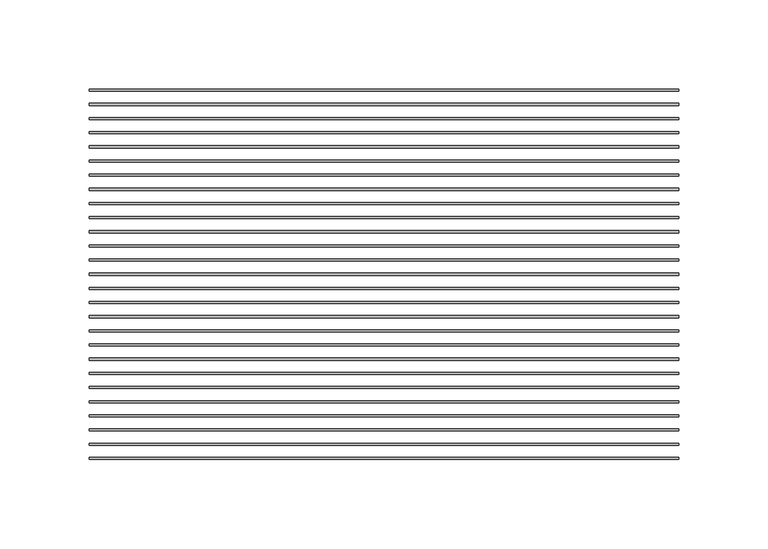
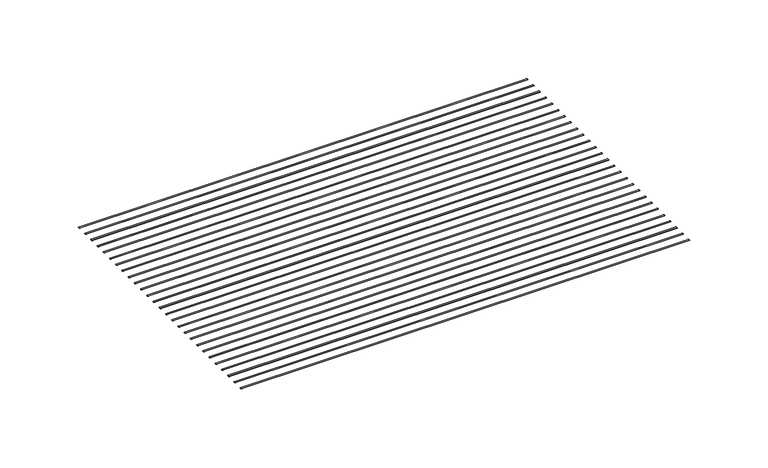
"""IFC4 building model written with IfcOpenShell, lengths in millimetres: proxy geometry, CRAi Generic Model Mesh Piece Face Based : CRAi Generic Model Mesh Piece Face Based."""

from ifc_helpers import new_model, si_unit, point, frame, origin, place, context, project, spatial, ellipse_curve, trimmed, source, transform, mapped, element, save
from ifc_brep_helpers import plane_surface, extruded_surface, advanced_brep


def generic_models_7dd17a53(model_context):
    return source(origin(), model_context, "Body", "AdvancedBrep", [
        advanced_brep(
        [(-165.1, 155.135384, -2.9765625), (-165.1, 153.944759, -2.9765625), (165.1, 155.135384, -2.9765625), (165.1, 153.944759, -2.9765625)],
        [
            (0, 1, ellipse_curve(frame((-165.1, 154.5400715, -2.9765625), z_axis=(-1.0, 0.0, 0.0), x_axis=(0.0, -1.0, 0.0)), 0.5953125, 0.1984375)),
            (1, 0, ellipse_curve(frame((-165.1, 154.5400715, -2.9765625), z_axis=(-1.0, 0.0, 0.0), x_axis=(0.0, -1.0, 0.0)), 0.5953125, 0.1984375)),
            (2, 3, ellipse_curve(frame((165.1, 154.5400715, -2.9765625), z_axis=(1.0, 0.0, 0.0), x_axis=(0.0, -1.0, 0.0)), 0.5953125, 0.1984375)),
            (3, 2, ellipse_curve(frame((165.1, 154.5400715, -2.9765625), z_axis=(1.0, 0.0, 0.0), x_axis=(0.0, -1.0, 0.0)), 0.5953125, 0.1984375)),
            (0, 2),
            (3, 1),
        ],
        [
            plane_surface(frame((-165.1, 154.5400715, -2.9765625), z_axis=(-1.0, 0.0, 0.0), x_axis=(0.0, 0.0, 1.0))),
            plane_surface(frame((165.1, 154.5400715, -2.9765625), z_axis=(1.0, 0.0, 0.0), x_axis=(0.0, 0.0, 1.0))),
            extruded_surface(trimmed(ellipse_curve(frame((165.1, 154.5400715, -2.9765625), z_axis=(-1.0, 0.0, 0.0), x_axis=(0.0, -1.0, 0.0)), 0.5953125, 0.1984375), [point((165.1, 155.135384, -2.9765625))], [point((165.1, 153.944759, -2.9765625))], True, "CARTESIAN"), (-330.2, 0.0, 0.0), 330.2),
            extruded_surface(trimmed(ellipse_curve(frame((165.1, 154.5400715, -2.9765625), z_axis=(-1.0, 0.0, 0.0), x_axis=(0.0, -1.0, 0.0)), 0.5953125, 0.1984375), [point((165.1, 153.944759, -2.9765625))], [point((165.1, 155.135384, -2.9765625))], True, "CARTESIAN"), (-330.2, 0.0, 0.0), 330.2),
        ],
        [
            (0, [[1, 2]]),
            (1, [[3, 4]]),
            (2, [[-1, 5, -4, 6]]),
            (3, [[-2, -6, -3, -5]]),
        ],
    ),
        advanced_brep(
        [(-165.1, 147.197884, -2.9765625), (-165.1, 146.007259, -2.9765625), (165.1, 147.197884, -2.9765625), (165.1, 146.007259, -2.9765625)],
        [
            (0, 1, ellipse_curve(frame((-165.1, 146.6025715, -2.9765625), z_axis=(-1.0, 0.0, 0.0), x_axis=(0.0, -1.0, 0.0)), 0.5953125, 0.1984375)),
            (1, 0, ellipse_curve(frame((-165.1, 146.6025715, -2.9765625), z_axis=(-1.0, 0.0, 0.0), x_axis=(0.0, -1.0, 0.0)), 0.5953125, 0.1984375)),
            (2, 3, ellipse_curve(frame((165.1, 146.6025715, -2.9765625), z_axis=(1.0, 0.0, 0.0), x_axis=(0.0, -1.0, 0.0)), 0.5953125, 0.1984375)),
            (3, 2, ellipse_curve(frame((165.1, 146.6025715, -2.9765625), z_axis=(1.0, 0.0, 0.0), x_axis=(0.0, -1.0, 0.0)), 0.5953125, 0.1984375)),
            (0, 2),
            (3, 1),
        ],
        [
            plane_surface(frame((-165.1, 146.6025715, -2.9765625), z_axis=(-1.0, 0.0, 0.0), x_axis=(0.0, 0.0, 1.0))),
            plane_surface(frame((165.1, 146.6025715, -2.9765625), z_axis=(1.0, 0.0, 0.0), x_axis=(0.0, 0.0, 1.0))),
            extruded_surface(trimmed(ellipse_curve(frame((165.1, 146.6025715, -2.9765625), z_axis=(-1.0, 0.0, 0.0), x_axis=(0.0, -1.0, 0.0)), 0.5953125, 0.1984375), [point((165.1, 147.197884, -2.9765625))], [point((165.1, 146.007259, -2.9765625))], True, "CARTESIAN"), (-330.2, 0.0, 0.0), 330.2),
            extruded_surface(trimmed(ellipse_curve(frame((165.1, 146.6025715, -2.9765625), z_axis=(-1.0, 0.0, 0.0), x_axis=(0.0, -1.0, 0.0)), 0.5953125, 0.1984375), [point((165.1, 146.007259, -2.9765625))], [point((165.1, 147.197884, -2.9765625))], True, "CARTESIAN"), (-330.2, 0.0, 0.0), 330.2),
        ],
        [
            (0, [[1, 2]]),
            (1, [[3, 4]]),
            (2, [[-1, 5, -4, 6]]),
            (3, [[-2, -6, -3, -5]]),
        ],
    ),
        advanced_brep(
        [(-165.1, 139.260384, -2.9765625), (-165.1, 138.069759, -2.9765625), (165.1, 139.260384, -2.9765625), (165.1, 138.069759, -2.9765625)],
        [
            (0, 1, ellipse_curve(frame((-165.1, 138.6650715, -2.9765625), z_axis=(-1.0, 0.0, 0.0), x_axis=(0.0, -1.0, 0.0)), 0.5953125, 0.1984375)),
            (1, 0, ellipse_curve(frame((-165.1, 138.6650715, -2.9765625), z_axis=(-1.0, 0.0, 0.0), x_axis=(0.0, -1.0, 0.0)), 0.5953125, 0.1984375)),
            (2, 3, ellipse_curve(frame((165.1, 138.6650715, -2.9765625), z_axis=(1.0, 0.0, 0.0), x_axis=(0.0, -1.0, 0.0)), 0.5953125, 0.1984375)),
            (3, 2, ellipse_curve(frame((165.1, 138.6650715, -2.9765625), z_axis=(1.0, 0.0, 0.0), x_axis=(0.0, -1.0, 0.0)), 0.5953125, 0.1984375)),
            (0, 2),
            (3, 1),
        ],
        [
            plane_surface(frame((-165.1, 138.6650715, -2.9765625), z_axis=(-1.0, 0.0, 0.0), x_axis=(0.0, 0.0, 1.0))),
            plane_surface(frame((165.1, 138.6650715, -2.9765625), z_axis=(1.0, 0.0, 0.0), x_axis=(0.0, 0.0, 1.0))),
            extruded_surface(trimmed(ellipse_curve(frame((165.1, 138.6650715, -2.9765625), z_axis=(-1.0, 0.0, 0.0), x_axis=(0.0, -1.0, 0.0)), 0.5953125, 0.1984375), [point((165.1, 139.260384, -2.9765625))], [point((165.1, 138.069759, -2.9765625))], True, "CARTESIAN"), (-330.2, 0.0, 0.0), 330.2),
            extruded_surface(trimmed(ellipse_curve(frame((165.1, 138.6650715, -2.9765625), z_axis=(-1.0, 0.0, 0.0), x_axis=(0.0, -1.0, 0.0)), 0.5953125, 0.1984375), [point((165.1, 138.069759, -2.9765625))], [point((165.1, 139.260384, -2.9765625))], True, "CARTESIAN"), (-330.2, 0.0, 0.0), 330.2),
        ],
        [
            (0, [[1, 2]]),
            (1, [[3, 4]]),
            (2, [[-1, 5, -4, 6]]),
            (3, [[-2, -6, -3, -5]]),
        ],
    ),
        advanced_brep(
        [(-165.1, 131.322884, -2.9765625), (-165.1, 130.132259, -2.9765625), (165.1, 131.322884, -2.9765625), (165.1, 130.132259, -2.9765625)],
        [
            (0, 1, ellipse_curve(frame((-165.1, 130.7275715, -2.9765625), z_axis=(-1.0, 0.0, 0.0), x_axis=(0.0, -1.0, 0.0)), 0.5953125, 0.1984375)),
            (1, 0, ellipse_curve(frame((-165.1, 130.7275715, -2.9765625), z_axis=(-1.0, 0.0, 0.0), x_axis=(0.0, -1.0, 0.0)), 0.5953125, 0.1984375)),
            (2, 3, ellipse_curve(frame((165.1, 130.7275715, -2.9765625), z_axis=(1.0, 0.0, 0.0), x_axis=(0.0, -1.0, 0.0)), 0.5953125, 0.1984375)),
            (3, 2, ellipse_curve(frame((165.1, 130.7275715, -2.9765625), z_axis=(1.0, 0.0, 0.0), x_axis=(0.0, -1.0, 0.0)), 0.5953125, 0.1984375)),
            (0, 2),
            (3, 1),
        ],
        [
            plane_surface(frame((-165.1, 130.7275715, -2.9765625), z_axis=(-1.0, 0.0, 0.0), x_axis=(0.0, 0.0, 1.0))),
            plane_surface(frame((165.1, 130.7275715, -2.9765625), z_axis=(1.0, 0.0, 0.0), x_axis=(0.0, 0.0, 1.0))),
            extruded_surface(trimmed(ellipse_curve(frame((165.1, 130.7275715, -2.9765625), z_axis=(-1.0, 0.0, 0.0), x_axis=(0.0, -1.0, 0.0)), 0.5953125, 0.1984375), [point((165.1, 131.322884, -2.9765625))], [point((165.1, 130.132259, -2.9765625))], True, "CARTESIAN"), (-330.2, 0.0, 0.0), 330.2),
            extruded_surface(trimmed(ellipse_curve(frame((165.1, 130.7275715, -2.9765625), z_axis=(-1.0, 0.0, 0.0), x_axis=(0.0, -1.0, 0.0)), 0.5953125, 0.1984375), [point((165.1, 130.132259, -2.9765625))], [point((165.1, 131.322884, -2.9765625))], True, "CARTESIAN"), (-330.2, 0.0, 0.0), 330.2),
        ],
        [
            (0, [[1, 2]]),
            (1, [[3, 4]]),
            (2, [[-1, 5, -4, 6]]),
            (3, [[-2, -6, -3, -5]]),
        ],
    ),
        advanced_brep(
        [(-165.1, 123.385384, -2.9765625), (-165.1, 122.194759, -2.9765625), (165.1, 123.385384, -2.9765625), (165.1, 122.194759, -2.9765625)],
        [
            (0, 1, ellipse_curve(frame((-165.1, 122.7900715, -2.9765625), z_axis=(-1.0, 0.0, 0.0), x_axis=(0.0, -1.0, 0.0)), 0.5953125, 0.1984375)),
            (1, 0, ellipse_curve(frame((-165.1, 122.7900715, -2.9765625), z_axis=(-1.0, 0.0, 0.0), x_axis=(0.0, -1.0, 0.0)), 0.5953125, 0.1984375)),
            (2, 3, ellipse_curve(frame((165.1, 122.7900715, -2.9765625), z_axis=(1.0, 0.0, 0.0), x_axis=(0.0, -1.0, 0.0)), 0.5953125, 0.1984375)),
            (3, 2, ellipse_curve(frame((165.1, 122.7900715, -2.9765625), z_axis=(1.0, 0.0, 0.0), x_axis=(0.0, -1.0, 0.0)), 0.5953125, 0.1984375)),
            (0, 2),
            (3, 1),
        ],
        [
            plane_surface(frame((-165.1, 122.7900715, -2.9765625), z_axis=(-1.0, 0.0, 0.0), x_axis=(0.0, 0.0, 1.0))),
            plane_surface(frame((165.1, 122.7900715, -2.9765625), z_axis=(1.0, 0.0, 0.0), x_axis=(0.0, 0.0, 1.0))),
            extruded_surface(trimmed(ellipse_curve(frame((165.1, 122.7900715, -2.9765625), z_axis=(-1.0, 0.0, 0.0), x_axis=(0.0, -1.0, 0.0)), 0.5953125, 0.1984375), [point((165.1, 123.385384, -2.9765625))], [point((165.1, 122.194759, -2.9765625))], True, "CARTESIAN"), (-330.2, 0.0, 0.0), 330.2),
            extruded_surface(trimmed(ellipse_curve(frame((165.1, 122.7900715, -2.9765625), z_axis=(-1.0, 0.0, 0.0), x_axis=(0.0, -1.0, 0.0)), 0.5953125, 0.1984375), [point((165.1, 122.194759, -2.9765625))], [point((165.1, 123.385384, -2.9765625))], True, "CARTESIAN"), (-330.2, 0.0, 0.0), 330.2),
        ],
        [
            (0, [[1, 2]]),
            (1, [[3, 4]]),
            (2, [[-1, 5, -4, 6]]),
            (3, [[-2, -6, -3, -5]]),
        ],
    ),
        advanced_brep(
        [(-165.1, 115.447884, -2.9765625), (-165.1, 114.257259, -2.9765625), (165.1, 115.447884, -2.9765625), (165.1, 114.257259, -2.9765625)],
        [
            (0, 1, ellipse_curve(frame((-165.1, 114.8525715, -2.9765625), z_axis=(-1.0, 0.0, 0.0), x_axis=(0.0, -1.0, 0.0)), 0.5953125, 0.1984375)),
            (1, 0, ellipse_curve(frame((-165.1, 114.8525715, -2.9765625), z_axis=(-1.0, 0.0, 0.0), x_axis=(0.0, -1.0, 0.0)), 0.5953125, 0.1984375)),
            (2, 3, ellipse_curve(frame((165.1, 114.8525715, -2.9765625), z_axis=(1.0, 0.0, 0.0), x_axis=(0.0, -1.0, 0.0)), 0.5953125, 0.1984375)),
            (3, 2, ellipse_curve(frame((165.1, 114.8525715, -2.9765625), z_axis=(1.0, 0.0, 0.0), x_axis=(0.0, -1.0, 0.0)), 0.5953125, 0.1984375)),
            (0, 2),
            (3, 1),
        ],
        [
            plane_surface(frame((-165.1, 114.8525715, -2.9765625), z_axis=(-1.0, 0.0, 0.0), x_axis=(0.0, 0.0, 1.0))),
            plane_surface(frame((165.1, 114.8525715, -2.9765625), z_axis=(1.0, 0.0, 0.0), x_axis=(0.0, 0.0, 1.0))),
            extruded_surface(trimmed(ellipse_curve(frame((165.1, 114.8525715, -2.9765625), z_axis=(-1.0, 0.0, 0.0), x_axis=(0.0, -1.0, 0.0)), 0.5953125, 0.1984375), [point((165.1, 115.447884, -2.9765625))], [point((165.1, 114.257259, -2.9765625))], True, "CARTESIAN"), (-330.2, 0.0, 0.0), 330.2),
            extruded_surface(trimmed(ellipse_curve(frame((165.1, 114.8525715, -2.9765625), z_axis=(-1.0, 0.0, 0.0), x_axis=(0.0, -1.0, 0.0)), 0.5953125, 0.1984375), [point((165.1, 114.257259, -2.9765625))], [point((165.1, 115.447884, -2.9765625))], True, "CARTESIAN"), (-330.2, 0.0, 0.0), 330.2),
        ],
        [
            (0, [[1, 2]]),
            (1, [[3, 4]]),
            (2, [[-1, 5, -4, 6]]),
            (3, [[-2, -6, -3, -5]]),
        ],
    ),
        advanced_brep(
        [(-165.1, 107.510384, -2.9765625), (-165.1, 106.319759, -2.9765625), (165.1, 107.510384, -2.9765625), (165.1, 106.319759, -2.9765625)],
        [
            (0, 1, ellipse_curve(frame((-165.1, 106.9150715, -2.9765625), z_axis=(-1.0, 0.0, 0.0), x_axis=(0.0, -1.0, 0.0)), 0.5953125, 0.1984375)),
            (1, 0, ellipse_curve(frame((-165.1, 106.9150715, -2.9765625), z_axis=(-1.0, 0.0, 0.0), x_axis=(0.0, -1.0, 0.0)), 0.5953125, 0.1984375)),
            (2, 3, ellipse_curve(frame((165.1, 106.9150715, -2.9765625), z_axis=(1.0, 0.0, 0.0), x_axis=(0.0, -1.0, 0.0)), 0.5953125, 0.1984375)),
            (3, 2, ellipse_curve(frame((165.1, 106.9150715, -2.9765625), z_axis=(1.0, 0.0, 0.0), x_axis=(0.0, -1.0, 0.0)), 0.5953125, 0.1984375)),
            (0, 2),
            (3, 1),
        ],
        [
            plane_surface(frame((-165.1, 106.9150715, -2.9765625), z_axis=(-1.0, 0.0, 0.0), x_axis=(0.0, 0.0, 1.0))),
            plane_surface(frame((165.1, 106.9150715, -2.9765625), z_axis=(1.0, 0.0, 0.0), x_axis=(0.0, 0.0, 1.0))),
            extruded_surface(trimmed(ellipse_curve(frame((165.1, 106.9150715, -2.9765625), z_axis=(-1.0, 0.0, 0.0), x_axis=(0.0, -1.0, 0.0)), 0.5953125, 0.1984375), [point((165.1, 107.510384, -2.9765625))], [point((165.1, 106.319759, -2.9765625))], True, "CARTESIAN"), (-330.2, 0.0, 0.0), 330.2),
            extruded_surface(trimmed(ellipse_curve(frame((165.1, 106.9150715, -2.9765625), z_axis=(-1.0, 0.0, 0.0), x_axis=(0.0, -1.0, 0.0)), 0.5953125, 0.1984375), [point((165.1, 106.319759, -2.9765625))], [point((165.1, 107.510384, -2.9765625))], True, "CARTESIAN"), (-330.2, 0.0, 0.0), 330.2),
        ],
        [
            (0, [[1, 2]]),
            (1, [[3, 4]]),
            (2, [[-1, 5, -4, 6]]),
            (3, [[-2, -6, -3, -5]]),
        ],
    ),
        advanced_brep(
        [(-165.1, 99.572884, -2.9765625), (-165.1, 98.382259, -2.9765625), (165.1, 99.572884, -2.9765625), (165.1, 98.382259, -2.9765625)],
        [
            (0, 1, ellipse_curve(frame((-165.1, 98.9775715, -2.9765625), z_axis=(-1.0, 0.0, 0.0), x_axis=(0.0, -1.0, 0.0)), 0.5953125, 0.1984375)),
            (1, 0, ellipse_curve(frame((-165.1, 98.9775715, -2.9765625), z_axis=(-1.0, 0.0, 0.0), x_axis=(0.0, -1.0, 0.0)), 0.5953125, 0.1984375)),
            (2, 3, ellipse_curve(frame((165.1, 98.9775715, -2.9765625), z_axis=(1.0, 0.0, 0.0), x_axis=(0.0, -1.0, 0.0)), 0.5953125, 0.1984375)),
            (3, 2, ellipse_curve(frame((165.1, 98.9775715, -2.9765625), z_axis=(1.0, 0.0, 0.0), x_axis=(0.0, -1.0, 0.0)), 0.5953125, 0.1984375)),
            (0, 2),
            (3, 1),
        ],
        [
            plane_surface(frame((-165.1, 98.9775715, -2.9765625), z_axis=(-1.0, 0.0, 0.0), x_axis=(0.0, 0.0, 1.0))),
            plane_surface(frame((165.1, 98.9775715, -2.9765625), z_axis=(1.0, 0.0, 0.0), x_axis=(0.0, 0.0, 1.0))),
            extruded_surface(trimmed(ellipse_curve(frame((165.1, 98.9775715, -2.9765625), z_axis=(-1.0, 0.0, 0.0), x_axis=(0.0, -1.0, 0.0)), 0.5953125, 0.1984375), [point((165.1, 99.572884, -2.9765625))], [point((165.1, 98.382259, -2.9765625))], True, "CARTESIAN"), (-330.2, 0.0, 0.0), 330.2),
            extruded_surface(trimmed(ellipse_curve(frame((165.1, 98.9775715, -2.9765625), z_axis=(-1.0, 0.0, 0.0), x_axis=(0.0, -1.0, 0.0)), 0.5953125, 0.1984375), [point((165.1, 98.382259, -2.9765625))], [point((165.1, 99.572884, -2.9765625))], True, "CARTESIAN"), (-330.2, 0.0, 0.0), 330.2),
        ],
        [
            (0, [[1, 2]]),
            (1, [[3, 4]]),
            (2, [[-1, 5, -4, 6]]),
            (3, [[-2, -6, -3, -5]]),
        ],
    ),
        advanced_brep(
        [(-165.1, 91.635384, -2.9765625), (-165.1, 90.444759, -2.9765625), (165.1, 91.635384, -2.9765625), (165.1, 90.444759, -2.9765625)],
        [
            (0, 1, ellipse_curve(frame((-165.1, 91.0400715, -2.9765625), z_axis=(-1.0, 0.0, 0.0), x_axis=(0.0, -1.0, 0.0)), 0.5953125, 0.1984375)),
            (1, 0, ellipse_curve(frame((-165.1, 91.0400715, -2.9765625), z_axis=(-1.0, 0.0, 0.0), x_axis=(0.0, -1.0, 0.0)), 0.5953125, 0.1984375)),
            (2, 3, ellipse_curve(frame((165.1, 91.0400715, -2.9765625), z_axis=(1.0, 0.0, 0.0), x_axis=(0.0, -1.0, 0.0)), 0.5953125, 0.1984375)),
            (3, 2, ellipse_curve(frame((165.1, 91.0400715, -2.9765625), z_axis=(1.0, 0.0, 0.0), x_axis=(0.0, -1.0, 0.0)), 0.5953125, 0.1984375)),
            (0, 2),
            (3, 1),
        ],
        [
            plane_surface(frame((-165.1, 91.0400715, -2.9765625), z_axis=(-1.0, 0.0, 0.0), x_axis=(0.0, 0.0, 1.0))),
            plane_surface(frame((165.1, 91.0400715, -2.9765625), z_axis=(1.0, 0.0, 0.0), x_axis=(0.0, 0.0, 1.0))),
            extruded_surface(trimmed(ellipse_curve(frame((165.1, 91.0400715, -2.9765625), z_axis=(-1.0, 0.0, 0.0), x_axis=(0.0, -1.0, 0.0)), 0.5953125, 0.1984375), [point((165.1, 91.635384, -2.9765625))], [point((165.1, 90.444759, -2.9765625))], True, "CARTESIAN"), (-330.2, 0.0, 0.0), 330.2),
            extruded_surface(trimmed(ellipse_curve(frame((165.1, 91.0400715, -2.9765625), z_axis=(-1.0, 0.0, 0.0), x_axis=(0.0, -1.0, 0.0)), 0.5953125, 0.1984375), [point((165.1, 90.444759, -2.9765625))], [point((165.1, 91.635384, -2.9765625))], True, "CARTESIAN"), (-330.2, 0.0, 0.0), 330.2),
        ],
        [
            (0, [[1, 2]]),
            (1, [[3, 4]]),
            (2, [[-1, 5, -4, 6]]),
            (3, [[-2, -6, -3, -5]]),
        ],
    ),
        advanced_brep(
        [(-165.1, 83.697884, -2.9765625), (-165.1, 82.507259, -2.9765625), (165.1, 83.697884, -2.9765625), (165.1, 82.507259, -2.9765625)],
        [
            (0, 1, ellipse_curve(frame((-165.1, 83.1025715, -2.9765625), z_axis=(-1.0, 0.0, 0.0), x_axis=(0.0, -1.0, 0.0)), 0.5953125, 0.1984375)),
            (1, 0, ellipse_curve(frame((-165.1, 83.1025715, -2.9765625), z_axis=(-1.0, 0.0, 0.0), x_axis=(0.0, -1.0, 0.0)), 0.5953125, 0.1984375)),
            (2, 3, ellipse_curve(frame((165.1, 83.1025715, -2.9765625), z_axis=(1.0, 0.0, 0.0), x_axis=(0.0, -1.0, 0.0)), 0.5953125, 0.1984375)),
            (3, 2, ellipse_curve(frame((165.1, 83.1025715, -2.9765625), z_axis=(1.0, 0.0, 0.0), x_axis=(0.0, -1.0, 0.0)), 0.5953125, 0.1984375)),
            (0, 2),
            (3, 1),
        ],
        [
            plane_surface(frame((-165.1, 83.1025715, -2.9765625), z_axis=(-1.0, 0.0, 0.0), x_axis=(0.0, 0.0, 1.0))),
            plane_surface(frame((165.1, 83.1025715, -2.9765625), z_axis=(1.0, 0.0, 0.0), x_axis=(0.0, 0.0, 1.0))),
            extruded_surface(trimmed(ellipse_curve(frame((165.1, 83.1025715, -2.9765625), z_axis=(-1.0, 0.0, 0.0), x_axis=(0.0, -1.0, 0.0)), 0.5953125, 0.1984375), [point((165.1, 83.697884, -2.9765625))], [point((165.1, 82.507259, -2.9765625))], True, "CARTESIAN"), (-330.2, 0.0, 0.0), 330.2),
            extruded_surface(trimmed(ellipse_curve(frame((165.1, 83.1025715, -2.9765625), z_axis=(-1.0, 0.0, 0.0), x_axis=(0.0, -1.0, 0.0)), 0.5953125, 0.1984375), [point((165.1, 82.507259, -2.9765625))], [point((165.1, 83.697884, -2.9765625))], True, "CARTESIAN"), (-330.2, 0.0, 0.0), 330.2),
        ],
        [
            (0, [[1, 2]]),
            (1, [[3, 4]]),
            (2, [[-1, 5, -4, 6]]),
            (3, [[-2, -6, -3, -5]]),
        ],
    ),
        advanced_brep(
        [(-165.1, 75.760384, -2.9765625), (-165.1, 74.569759, -2.9765625), (165.1, 75.760384, -2.9765625), (165.1, 74.569759, -2.9765625)],
        [
            (0, 1, ellipse_curve(frame((-165.1, 75.1650715, -2.9765625), z_axis=(-1.0, 0.0, 0.0), x_axis=(0.0, -1.0, 0.0)), 0.5953125, 0.1984375)),
            (1, 0, ellipse_curve(frame((-165.1, 75.1650715, -2.9765625), z_axis=(-1.0, 0.0, 0.0), x_axis=(0.0, -1.0, 0.0)), 0.5953125, 0.1984375)),
            (2, 3, ellipse_curve(frame((165.1, 75.1650715, -2.9765625), z_axis=(1.0, 0.0, 0.0), x_axis=(0.0, -1.0, 0.0)), 0.5953125, 0.1984375)),
            (3, 2, ellipse_curve(frame((165.1, 75.1650715, -2.9765625), z_axis=(1.0, 0.0, 0.0), x_axis=(0.0, -1.0, 0.0)), 0.5953125, 0.1984375)),
            (0, 2),
            (3, 1),
        ],
        [
            plane_surface(frame((-165.1, 75.1650715, -2.9765625), z_axis=(-1.0, 0.0, 0.0), x_axis=(0.0, 0.0, 1.0))),
            plane_surface(frame((165.1, 75.1650715, -2.9765625), z_axis=(1.0, 0.0, 0.0), x_axis=(0.0, 0.0, 1.0))),
            extruded_surface(trimmed(ellipse_curve(frame((165.1, 75.1650715, -2.9765625), z_axis=(-1.0, 0.0, 0.0), x_axis=(0.0, -1.0, 0.0)), 0.5953125, 0.1984375), [point((165.1, 75.760384, -2.9765625))], [point((165.1, 74.569759, -2.9765625))], True, "CARTESIAN"), (-330.2, 0.0, 0.0), 330.2),
            extruded_surface(trimmed(ellipse_curve(frame((165.1, 75.1650715, -2.9765625), z_axis=(-1.0, 0.0, 0.0), x_axis=(0.0, -1.0, 0.0)), 0.5953125, 0.1984375), [point((165.1, 74.569759, -2.9765625))], [point((165.1, 75.760384, -2.9765625))], True, "CARTESIAN"), (-330.2, 0.0, 0.0), 330.2),
        ],
        [
            (0, [[1, 2]]),
            (1, [[3, 4]]),
            (2, [[-1, 5, -4, 6]]),
            (3, [[-2, -6, -3, -5]]),
        ],
    ),
        advanced_brep(
        [(-165.1, 67.822884, -2.9765625), (-165.1, 66.632259, -2.9765625), (165.1, 67.822884, -2.9765625), (165.1, 66.632259, -2.9765625)],
        [
            (0, 1, ellipse_curve(frame((-165.1, 67.2275715, -2.9765625), z_axis=(-1.0, 0.0, 0.0), x_axis=(0.0, -1.0, 0.0)), 0.5953125, 0.1984375)),
            (1, 0, ellipse_curve(frame((-165.1, 67.2275715, -2.9765625), z_axis=(-1.0, 0.0, 0.0), x_axis=(0.0, -1.0, 0.0)), 0.5953125, 0.1984375)),
            (2, 3, ellipse_curve(frame((165.1, 67.2275715, -2.9765625), z_axis=(1.0, 0.0, 0.0), x_axis=(0.0, -1.0, 0.0)), 0.5953125, 0.1984375)),
            (3, 2, ellipse_curve(frame((165.1, 67.2275715, -2.9765625), z_axis=(1.0, 0.0, 0.0), x_axis=(0.0, -1.0, 0.0)), 0.5953125, 0.1984375)),
            (0, 2),
            (3, 1),
        ],
        [
            plane_surface(frame((-165.1, 67.2275715, -2.9765625), z_axis=(-1.0, 0.0, 0.0), x_axis=(0.0, 0.0, 1.0))),
            plane_surface(frame((165.1, 67.2275715, -2.9765625), z_axis=(1.0, 0.0, 0.0), x_axis=(0.0, 0.0, 1.0))),
            extruded_surface(trimmed(ellipse_curve(frame((165.1, 67.2275715, -2.9765625), z_axis=(-1.0, 0.0, 0.0), x_axis=(0.0, -1.0, 0.0)), 0.5953125, 0.1984375), [point((165.1, 67.822884, -2.9765625))], [point((165.1, 66.632259, -2.9765625))], True, "CARTESIAN"), (-330.2, 0.0, 0.0), 330.2),
            extruded_surface(trimmed(ellipse_curve(frame((165.1, 67.2275715, -2.9765625), z_axis=(-1.0, 0.0, 0.0), x_axis=(0.0, -1.0, 0.0)), 0.5953125, 0.1984375), [point((165.1, 66.632259, -2.9765625))], [point((165.1, 67.822884, -2.9765625))], True, "CARTESIAN"), (-330.2, 0.0, 0.0), 330.2),
        ],
        [
            (0, [[1, 2]]),
            (1, [[3, 4]]),
            (2, [[-1, 5, -4, 6]]),
            (3, [[-2, -6, -3, -5]]),
        ],
    ),
        advanced_brep(
        [(-165.1, 59.885384, -2.9765625), (-165.1, 58.694759, -2.9765625), (165.1, 59.885384, -2.9765625), (165.1, 58.694759, -2.9765625)],
        [
            (0, 1, ellipse_curve(frame((-165.1, 59.2900715, -2.9765625), z_axis=(-1.0, 0.0, 0.0), x_axis=(0.0, -1.0, 0.0)), 0.5953125, 0.1984375)),
            (1, 0, ellipse_curve(frame((-165.1, 59.2900715, -2.9765625), z_axis=(-1.0, 0.0, 0.0), x_axis=(0.0, -1.0, 0.0)), 0.5953125, 0.1984375)),
            (2, 3, ellipse_curve(frame((165.1, 59.2900715, -2.9765625), z_axis=(1.0, 0.0, 0.0), x_axis=(0.0, -1.0, 0.0)), 0.5953125, 0.1984375)),
            (3, 2, ellipse_curve(frame((165.1, 59.2900715, -2.9765625), z_axis=(1.0, 0.0, 0.0), x_axis=(0.0, -1.0, 0.0)), 0.5953125, 0.1984375)),
            (0, 2),
            (3, 1),
        ],
        [
            plane_surface(frame((-165.1, 59.2900715, -2.9765625), z_axis=(-1.0, 0.0, 0.0), x_axis=(0.0, 0.0, 1.0))),
            plane_surface(frame((165.1, 59.2900715, -2.9765625), z_axis=(1.0, 0.0, 0.0), x_axis=(0.0, 0.0, 1.0))),
            extruded_surface(trimmed(ellipse_curve(frame((165.1, 59.2900715, -2.9765625), z_axis=(-1.0, 0.0, 0.0), x_axis=(0.0, -1.0, 0.0)), 0.5953125, 0.1984375), [point((165.1, 59.885384, -2.9765625))], [point((165.1, 58.694759, -2.9765625))], True, "CARTESIAN"), (-330.2, 0.0, 0.0), 330.2),
            extruded_surface(trimmed(ellipse_curve(frame((165.1, 59.2900715, -2.9765625), z_axis=(-1.0, 0.0, 0.0), x_axis=(0.0, -1.0, 0.0)), 0.5953125, 0.1984375), [point((165.1, 58.694759, -2.9765625))], [point((165.1, 59.885384, -2.9765625))], True, "CARTESIAN"), (-330.2, 0.0, 0.0), 330.2),
        ],
        [
            (0, [[1, 2]]),
            (1, [[3, 4]]),
            (2, [[-1, 5, -4, 6]]),
            (3, [[-2, -6, -3, -5]]),
        ],
    ),
        advanced_brep(
        [(-165.1, 51.947884, -2.9765625), (-165.1, 50.757259, -2.9765625), (165.1, 51.947884, -2.9765625), (165.1, 50.757259, -2.9765625)],
        [
            (0, 1, ellipse_curve(frame((-165.1, 51.3525715, -2.9765625), z_axis=(-1.0, 0.0, 0.0), x_axis=(0.0, -1.0, 0.0)), 0.5953125, 0.1984375)),
            (1, 0, ellipse_curve(frame((-165.1, 51.3525715, -2.9765625), z_axis=(-1.0, 0.0, 0.0), x_axis=(0.0, -1.0, 0.0)), 0.5953125, 0.1984375)),
            (2, 3, ellipse_curve(frame((165.1, 51.3525715, -2.9765625), z_axis=(1.0, 0.0, 0.0), x_axis=(0.0, -1.0, 0.0)), 0.5953125, 0.1984375)),
            (3, 2, ellipse_curve(frame((165.1, 51.3525715, -2.9765625), z_axis=(1.0, 0.0, 0.0), x_axis=(0.0, -1.0, 0.0)), 0.5953125, 0.1984375)),
            (0, 2),
            (3, 1),
        ],
        [
            plane_surface(frame((-165.1, 51.3525715, -2.9765625), z_axis=(-1.0, 0.0, 0.0), x_axis=(0.0, 0.0, 1.0))),
            plane_surface(frame((165.1, 51.3525715, -2.9765625), z_axis=(1.0, 0.0, 0.0), x_axis=(0.0, 0.0, 1.0))),
            extruded_surface(trimmed(ellipse_curve(frame((165.1, 51.3525715, -2.9765625), z_axis=(-1.0, 0.0, 0.0), x_axis=(0.0, -1.0, 0.0)), 0.5953125, 0.1984375), [point((165.1, 51.947884, -2.9765625))], [point((165.1, 50.757259, -2.9765625))], True, "CARTESIAN"), (-330.2, 0.0, 0.0), 330.2),
            extruded_surface(trimmed(ellipse_curve(frame((165.1, 51.3525715, -2.9765625), z_axis=(-1.0, 0.0, 0.0), x_axis=(0.0, -1.0, 0.0)), 0.5953125, 0.1984375), [point((165.1, 50.757259, -2.9765625))], [point((165.1, 51.947884, -2.9765625))], True, "CARTESIAN"), (-330.2, 0.0, 0.0), 330.2),
        ],
        [
            (0, [[1, 2]]),
            (1, [[3, 4]]),
            (2, [[-1, 5, -4, 6]]),
            (3, [[-2, -6, -3, -5]]),
        ],
    ),
        advanced_brep(
        [(-165.1, 44.010384, -2.9765625), (-165.1, 42.819759, -2.9765625), (165.1, 44.010384, -2.9765625), (165.1, 42.819759, -2.9765625)],
        [
            (0, 1, ellipse_curve(frame((-165.1, 43.4150715, -2.9765625), z_axis=(-1.0, 0.0, 0.0), x_axis=(0.0, -1.0, 0.0)), 0.5953125, 0.1984375)),
            (1, 0, ellipse_curve(frame((-165.1, 43.4150715, -2.9765625), z_axis=(-1.0, 0.0, 0.0), x_axis=(0.0, -1.0, 0.0)), 0.5953125, 0.1984375)),
            (2, 3, ellipse_curve(frame((165.1, 43.4150715, -2.9765625), z_axis=(1.0, 0.0, 0.0), x_axis=(0.0, -1.0, 0.0)), 0.5953125, 0.1984375)),
            (3, 2, ellipse_curve(frame((165.1, 43.4150715, -2.9765625), z_axis=(1.0, 0.0, 0.0), x_axis=(0.0, -1.0, 0.0)), 0.5953125, 0.1984375)),
            (0, 2),
            (3, 1),
        ],
        [
            plane_surface(frame((-165.1, 43.4150715, -2.9765625), z_axis=(-1.0, 0.0, 0.0), x_axis=(0.0, 0.0, 1.0))),
            plane_surface(frame((165.1, 43.4150715, -2.9765625), z_axis=(1.0, 0.0, 0.0), x_axis=(0.0, 0.0, 1.0))),
            extruded_surface(trimmed(ellipse_curve(frame((165.1, 43.4150715, -2.9765625), z_axis=(-1.0, 0.0, 0.0), x_axis=(0.0, -1.0, 0.0)), 0.5953125, 0.1984375), [point((165.1, 44.010384, -2.9765625))], [point((165.1, 42.819759, -2.9765625))], True, "CARTESIAN"), (-330.2, 0.0, 0.0), 330.2),
            extruded_surface(trimmed(ellipse_curve(frame((165.1, 43.4150715, -2.9765625), z_axis=(-1.0, 0.0, 0.0), x_axis=(0.0, -1.0, 0.0)), 0.5953125, 0.1984375), [point((165.1, 42.819759, -2.9765625))], [point((165.1, 44.010384, -2.9765625))], True, "CARTESIAN"), (-330.2, 0.0, 0.0), 330.2),
        ],
        [
            (0, [[1, 2]]),
            (1, [[3, 4]]),
            (2, [[-1, 5, -4, 6]]),
            (3, [[-2, -6, -3, -5]]),
        ],
    ),
        advanced_brep(
        [(-165.1, 36.072884, -2.9765625), (-165.1, 34.882259, -2.9765625), (165.1, 36.072884, -2.9765625), (165.1, 34.882259, -2.9765625)],
        [
            (0, 1, ellipse_curve(frame((-165.1, 35.4775715, -2.9765625), z_axis=(-1.0, 0.0, 0.0), x_axis=(0.0, -1.0, 0.0)), 0.5953125, 0.1984375)),
            (1, 0, ellipse_curve(frame((-165.1, 35.4775715, -2.9765625), z_axis=(-1.0, 0.0, 0.0), x_axis=(0.0, -1.0, 0.0)), 0.5953125, 0.1984375)),
            (2, 3, ellipse_curve(frame((165.1, 35.4775715, -2.9765625), z_axis=(1.0, 0.0, 0.0), x_axis=(0.0, -1.0, 0.0)), 0.5953125, 0.1984375)),
            (3, 2, ellipse_curve(frame((165.1, 35.4775715, -2.9765625), z_axis=(1.0, 0.0, 0.0), x_axis=(0.0, -1.0, 0.0)), 0.5953125, 0.1984375)),
            (0, 2),
            (3, 1),
        ],
        [
            plane_surface(frame((-165.1, 35.4775715, -2.9765625), z_axis=(-1.0, 0.0, 0.0), x_axis=(0.0, 0.0, 1.0))),
            plane_surface(frame((165.1, 35.4775715, -2.9765625), z_axis=(1.0, 0.0, 0.0), x_axis=(0.0, 0.0, 1.0))),
            extruded_surface(trimmed(ellipse_curve(frame((165.1, 35.4775715, -2.9765625), z_axis=(-1.0, 0.0, 0.0), x_axis=(0.0, -1.0, 0.0)), 0.5953125, 0.1984375), [point((165.1, 36.072884, -2.9765625))], [point((165.1, 34.882259, -2.9765625))], True, "CARTESIAN"), (-330.2, 0.0, 0.0), 330.2),
            extruded_surface(trimmed(ellipse_curve(frame((165.1, 35.4775715, -2.9765625), z_axis=(-1.0, 0.0, 0.0), x_axis=(0.0, -1.0, 0.0)), 0.5953125, 0.1984375), [point((165.1, 34.882259, -2.9765625))], [point((165.1, 36.072884, -2.9765625))], True, "CARTESIAN"), (-330.2, 0.0, 0.0), 330.2),
        ],
        [
            (0, [[1, 2]]),
            (1, [[3, 4]]),
            (2, [[-1, 5, -4, 6]]),
            (3, [[-2, -6, -3, -5]]),
        ],
    ),
        advanced_brep(
        [(-165.1, 28.135384, -2.9765625), (-165.1, 26.944759, -2.9765625), (165.1, 28.135384, -2.9765625), (165.1, 26.944759, -2.9765625)],
        [
            (0, 1, ellipse_curve(frame((-165.1, 27.5400715, -2.9765625), z_axis=(-1.0, 0.0, 0.0), x_axis=(0.0, -1.0, 0.0)), 0.5953125, 0.1984375)),
            (1, 0, ellipse_curve(frame((-165.1, 27.5400715, -2.9765625), z_axis=(-1.0, 0.0, 0.0), x_axis=(0.0, -1.0, 0.0)), 0.5953125, 0.1984375)),
            (2, 3, ellipse_curve(frame((165.1, 27.5400715, -2.9765625), z_axis=(1.0, 0.0, 0.0), x_axis=(0.0, -1.0, 0.0)), 0.5953125, 0.1984375)),
            (3, 2, ellipse_curve(frame((165.1, 27.5400715, -2.9765625), z_axis=(1.0, 0.0, 0.0), x_axis=(0.0, -1.0, 0.0)), 0.5953125, 0.1984375)),
            (0, 2),
            (3, 1),
        ],
        [
            plane_surface(frame((-165.1, 27.5400715, -2.9765625), z_axis=(-1.0, 0.0, 0.0), x_axis=(0.0, 0.0, 1.0))),
            plane_surface(frame((165.1, 27.5400715, -2.9765625), z_axis=(1.0, 0.0, 0.0), x_axis=(0.0, 0.0, 1.0))),
            extruded_surface(trimmed(ellipse_curve(frame((165.1, 27.5400715, -2.9765625), z_axis=(-1.0, 0.0, 0.0), x_axis=(0.0, -1.0, 0.0)), 0.5953125, 0.1984375), [point((165.1, 28.135384, -2.9765625))], [point((165.1, 26.944759, -2.9765625))], True, "CARTESIAN"), (-330.2, 0.0, 0.0), 330.2),
            extruded_surface(trimmed(ellipse_curve(frame((165.1, 27.5400715, -2.9765625), z_axis=(-1.0, 0.0, 0.0), x_axis=(0.0, -1.0, 0.0)), 0.5953125, 0.1984375), [point((165.1, 26.944759, -2.9765625))], [point((165.1, 28.135384, -2.9765625))], True, "CARTESIAN"), (-330.2, 0.0, 0.0), 330.2),
        ],
        [
            (0, [[1, 2]]),
            (1, [[3, 4]]),
            (2, [[-1, 5, -4, 6]]),
            (3, [[-2, -6, -3, -5]]),
        ],
    ),
        advanced_brep(
        [(-165.1, 20.197884, -2.9765625), (-165.1, 19.007259, -2.9765625), (165.1, 20.197884, -2.9765625), (165.1, 19.007259, -2.9765625)],
        [
            (0, 1, ellipse_curve(frame((-165.1, 19.6025715, -2.9765625), z_axis=(-1.0, 0.0, 0.0), x_axis=(0.0, -1.0, 0.0)), 0.5953125, 0.1984375)),
            (1, 0, ellipse_curve(frame((-165.1, 19.6025715, -2.9765625), z_axis=(-1.0, 0.0, 0.0), x_axis=(0.0, -1.0, 0.0)), 0.5953125, 0.1984375)),
            (2, 3, ellipse_curve(frame((165.1, 19.6025715, -2.9765625), z_axis=(1.0, 0.0, 0.0), x_axis=(0.0, -1.0, 0.0)), 0.5953125, 0.1984375)),
            (3, 2, ellipse_curve(frame((165.1, 19.6025715, -2.9765625), z_axis=(1.0, 0.0, 0.0), x_axis=(0.0, -1.0, 0.0)), 0.5953125, 0.1984375)),
            (0, 2),
            (3, 1),
        ],
        [
            plane_surface(frame((-165.1, 19.6025715, -2.9765625), z_axis=(-1.0, 0.0, 0.0), x_axis=(0.0, 0.0, 1.0))),
            plane_surface(frame((165.1, 19.6025715, -2.9765625), z_axis=(1.0, 0.0, 0.0), x_axis=(0.0, 0.0, 1.0))),
            extruded_surface(trimmed(ellipse_curve(frame((165.1, 19.6025715, -2.9765625), z_axis=(-1.0, 0.0, 0.0), x_axis=(0.0, -1.0, 0.0)), 0.5953125, 0.1984375), [point((165.1, 20.197884, -2.9765625))], [point((165.1, 19.007259, -2.9765625))], True, "CARTESIAN"), (-330.2, 0.0, 0.0), 330.2),
            extruded_surface(trimmed(ellipse_curve(frame((165.1, 19.6025715, -2.9765625), z_axis=(-1.0, 0.0, 0.0), x_axis=(0.0, -1.0, 0.0)), 0.5953125, 0.1984375), [point((165.1, 19.007259, -2.9765625))], [point((165.1, 20.197884, -2.9765625))], True, "CARTESIAN"), (-330.2, 0.0, 0.0), 330.2),
        ],
        [
            (0, [[1, 2]]),
            (1, [[3, 4]]),
            (2, [[-1, 5, -4, 6]]),
            (3, [[-2, -6, -3, -5]]),
        ],
    ),
        advanced_brep(
        [(-165.1, 12.260384, -2.9765625), (-165.1, 11.069759, -2.9765625), (165.1, 12.260384, -2.9765625), (165.1, 11.069759, -2.9765625)],
        [
            (0, 1, ellipse_curve(frame((-165.1, 11.6650715, -2.9765625), z_axis=(-1.0, 0.0, 0.0), x_axis=(0.0, -1.0, 0.0)), 0.5953125, 0.1984375)),
            (1, 0, ellipse_curve(frame((-165.1, 11.6650715, -2.9765625), z_axis=(-1.0, 0.0, 0.0), x_axis=(0.0, -1.0, 0.0)), 0.5953125, 0.1984375)),
            (2, 3, ellipse_curve(frame((165.1, 11.6650715, -2.9765625), z_axis=(1.0, 0.0, 0.0), x_axis=(0.0, -1.0, 0.0)), 0.5953125, 0.1984375)),
            (3, 2, ellipse_curve(frame((165.1, 11.6650715, -2.9765625), z_axis=(1.0, 0.0, 0.0), x_axis=(0.0, -1.0, 0.0)), 0.5953125, 0.1984375)),
            (0, 2),
            (3, 1),
        ],
        [
            plane_surface(frame((-165.1, 11.6650715, -2.9765625), z_axis=(-1.0, 0.0, 0.0), x_axis=(0.0, 0.0, 1.0))),
            plane_surface(frame((165.1, 11.6650715, -2.9765625), z_axis=(1.0, 0.0, 0.0), x_axis=(0.0, 0.0, 1.0))),
            extruded_surface(trimmed(ellipse_curve(frame((165.1, 11.6650715, -2.9765625), z_axis=(-1.0, 0.0, 0.0), x_axis=(0.0, -1.0, 0.0)), 0.5953125, 0.1984375), [point((165.1, 12.260384, -2.9765625))], [point((165.1, 11.069759, -2.9765625))], True, "CARTESIAN"), (-330.2, 0.0, 0.0), 330.2),
            extruded_surface(trimmed(ellipse_curve(frame((165.1, 11.6650715, -2.9765625), z_axis=(-1.0, 0.0, 0.0), x_axis=(0.0, -1.0, 0.0)), 0.5953125, 0.1984375), [point((165.1, 11.069759, -2.9765625))], [point((165.1, 12.260384, -2.9765625))], True, "CARTESIAN"), (-330.2, 0.0, 0.0), 330.2),
        ],
        [
            (0, [[1, 2]]),
            (1, [[3, 4]]),
            (2, [[-1, 5, -4, 6]]),
            (3, [[-2, -6, -3, -5]]),
        ],
    ),
        advanced_brep(
        [(-165.1, 4.322884, -2.9765625), (-165.1, 3.132259, -2.9765625), (165.1, 4.322884, -2.9765625), (165.1, 3.132259, -2.9765625)],
        [
            (0, 1, ellipse_curve(frame((-165.1, 3.7275715, -2.9765625), z_axis=(-1.0, 0.0, 0.0), x_axis=(0.0, -1.0, 0.0)), 0.5953125, 0.1984375)),
            (1, 0, ellipse_curve(frame((-165.1, 3.7275715, -2.9765625), z_axis=(-1.0, 0.0, 0.0), x_axis=(0.0, -1.0, 0.0)), 0.5953125, 0.1984375)),
            (2, 3, ellipse_curve(frame((165.1, 3.7275715, -2.9765625), z_axis=(1.0, 0.0, 0.0), x_axis=(0.0, -1.0, 0.0)), 0.5953125, 0.1984375)),
            (3, 2, ellipse_curve(frame((165.1, 3.7275715, -2.9765625), z_axis=(1.0, 0.0, 0.0), x_axis=(0.0, -1.0, 0.0)), 0.5953125, 0.1984375)),
            (0, 2),
            (3, 1),
        ],
        [
            plane_surface(frame((-165.1, 3.7275715, -2.9765625), z_axis=(-1.0, 0.0, 0.0), x_axis=(0.0, 0.0, 1.0))),
            plane_surface(frame((165.1, 3.7275715, -2.9765625), z_axis=(1.0, 0.0, 0.0), x_axis=(0.0, 0.0, 1.0))),
            extruded_surface(trimmed(ellipse_curve(frame((165.1, 3.7275715, -2.9765625), z_axis=(-1.0, 0.0, 0.0), x_axis=(0.0, -1.0, 0.0)), 0.5953125, 0.1984375), [point((165.1, 4.322884, -2.9765625))], [point((165.1, 3.132259, -2.9765625))], True, "CARTESIAN"), (-330.2, 0.0, 0.0), 330.2),
            extruded_surface(trimmed(ellipse_curve(frame((165.1, 3.7275715, -2.9765625), z_axis=(-1.0, 0.0, 0.0), x_axis=(0.0, -1.0, 0.0)), 0.5953125, 0.1984375), [point((165.1, 3.132259, -2.9765625))], [point((165.1, 4.322884, -2.9765625))], True, "CARTESIAN"), (-330.2, 0.0, 0.0), 330.2),
        ],
        [
            (0, [[1, 2]]),
            (1, [[3, 4]]),
            (2, [[-1, 5, -4, 6]]),
            (3, [[-2, -6, -3, -5]]),
        ],
    ),
        advanced_brep(
        [(-165.1, -3.614616, -2.9765625), (-165.1, -4.805241, -2.9765625), (165.1, -3.614616, -2.9765625), (165.1, -4.805241, -2.9765625)],
        [
            (0, 1, ellipse_curve(frame((-165.1, -4.2099285, -2.9765625), z_axis=(-1.0, 0.0, 0.0), x_axis=(0.0, -1.0, 0.0)), 0.5953125, 0.1984375)),
            (1, 0, ellipse_curve(frame((-165.1, -4.2099285, -2.9765625), z_axis=(-1.0, 0.0, 0.0), x_axis=(0.0, -1.0, 0.0)), 0.5953125, 0.1984375)),
            (2, 3, ellipse_curve(frame((165.1, -4.2099285, -2.9765625), z_axis=(1.0, 0.0, 0.0), x_axis=(0.0, -1.0, 0.0)), 0.5953125, 0.1984375)),
            (3, 2, ellipse_curve(frame((165.1, -4.2099285, -2.9765625), z_axis=(1.0, 0.0, 0.0), x_axis=(0.0, -1.0, 0.0)), 0.5953125, 0.1984375)),
            (0, 2),
            (3, 1),
        ],
        [
            plane_surface(frame((-165.1, -4.2099285, -2.9765625), z_axis=(-1.0, 0.0, 0.0), x_axis=(0.0, 0.0, 1.0))),
            plane_surface(frame((165.1, -4.2099285, -2.9765625), z_axis=(1.0, 0.0, 0.0), x_axis=(0.0, 0.0, 1.0))),
            extruded_surface(trimmed(ellipse_curve(frame((165.1, -4.2099285, -2.9765625), z_axis=(-1.0, 0.0, 0.0), x_axis=(0.0, -1.0, 0.0)), 0.5953125, 0.1984375), [point((165.1, -3.614616, -2.9765625))], [point((165.1, -4.805241, -2.9765625))], True, "CARTESIAN"), (-330.2, 0.0, 0.0), 330.2),
            extruded_surface(trimmed(ellipse_curve(frame((165.1, -4.2099285, -2.9765625), z_axis=(-1.0, 0.0, 0.0), x_axis=(0.0, -1.0, 0.0)), 0.5953125, 0.1984375), [point((165.1, -4.805241, -2.9765625))], [point((165.1, -3.614616, -2.9765625))], True, "CARTESIAN"), (-330.2, 0.0, 0.0), 330.2),
        ],
        [
            (0, [[1, 2]]),
            (1, [[3, 4]]),
            (2, [[-1, 5, -4, 6]]),
            (3, [[-2, -6, -3, -5]]),
        ],
    ),
        advanced_brep(
        [(-165.1, -11.552116, -2.9765625), (-165.1, -12.742741, -2.9765625), (165.1, -11.552116, -2.9765625), (165.1, -12.742741, -2.9765625)],
        [
            (0, 1, ellipse_curve(frame((-165.1, -12.1474285, -2.9765625), z_axis=(-1.0, 0.0, 0.0), x_axis=(0.0, -1.0, 0.0)), 0.5953125, 0.1984375)),
            (1, 0, ellipse_curve(frame((-165.1, -12.1474285, -2.9765625), z_axis=(-1.0, 0.0, 0.0), x_axis=(0.0, -1.0, 0.0)), 0.5953125, 0.1984375)),
            (2, 3, ellipse_curve(frame((165.1, -12.1474285, -2.9765625), z_axis=(1.0, 0.0, 0.0), x_axis=(0.0, -1.0, 0.0)), 0.5953125, 0.1984375)),
            (3, 2, ellipse_curve(frame((165.1, -12.1474285, -2.9765625), z_axis=(1.0, 0.0, 0.0), x_axis=(0.0, -1.0, 0.0)), 0.5953125, 0.1984375)),
            (0, 2),
            (3, 1),
        ],
        [
            plane_surface(frame((-165.1, -12.1474285, -2.9765625), z_axis=(-1.0, 0.0, 0.0), x_axis=(0.0, 0.0, 1.0))),
            plane_surface(frame((165.1, -12.1474285, -2.9765625), z_axis=(1.0, 0.0, 0.0), x_axis=(0.0, 0.0, 1.0))),
            extruded_surface(trimmed(ellipse_curve(frame((165.1, -12.1474285, -2.9765625), z_axis=(-1.0, 0.0, 0.0), x_axis=(0.0, -1.0, 0.0)), 0.5953125, 0.1984375), [point((165.1, -11.552116, -2.9765625))], [point((165.1, -12.742741, -2.9765625))], True, "CARTESIAN"), (-330.2, 0.0, 0.0), 330.2),
            extruded_surface(trimmed(ellipse_curve(frame((165.1, -12.1474285, -2.9765625), z_axis=(-1.0, 0.0, 0.0), x_axis=(0.0, -1.0, 0.0)), 0.5953125, 0.1984375), [point((165.1, -12.742741, -2.9765625))], [point((165.1, -11.552116, -2.9765625))], True, "CARTESIAN"), (-330.2, 0.0, 0.0), 330.2),
        ],
        [
            (0, [[1, 2]]),
            (1, [[3, 4]]),
            (2, [[-1, 5, -4, 6]]),
            (3, [[-2, -6, -3, -5]]),
        ],
    ),
        advanced_brep(
        [(-165.1, -19.489616, -2.9765625), (-165.1, -20.680241, -2.9765625), (165.1, -19.489616, -2.9765625), (165.1, -20.680241, -2.9765625)],
        [
            (0, 1, ellipse_curve(frame((-165.1, -20.0849285, -2.9765625), z_axis=(-1.0, 0.0, 0.0), x_axis=(0.0, -1.0, 0.0)), 0.5953125, 0.1984375)),
            (1, 0, ellipse_curve(frame((-165.1, -20.0849285, -2.9765625), z_axis=(-1.0, 0.0, 0.0), x_axis=(0.0, -1.0, 0.0)), 0.5953125, 0.1984375)),
            (2, 3, ellipse_curve(frame((165.1, -20.0849285, -2.9765625), z_axis=(1.0, 0.0, 0.0), x_axis=(0.0, -1.0, 0.0)), 0.5953125, 0.1984375)),
            (3, 2, ellipse_curve(frame((165.1, -20.0849285, -2.9765625), z_axis=(1.0, 0.0, 0.0), x_axis=(0.0, -1.0, 0.0)), 0.5953125, 0.1984375)),
            (0, 2),
            (3, 1),
        ],
        [
            plane_surface(frame((-165.1, -20.0849285, -2.9765625), z_axis=(-1.0, 0.0, 0.0), x_axis=(0.0, 0.0, 1.0))),
            plane_surface(frame((165.1, -20.0849285, -2.9765625), z_axis=(1.0, 0.0, 0.0), x_axis=(0.0, 0.0, 1.0))),
            extruded_surface(trimmed(ellipse_curve(frame((165.1, -20.0849285, -2.9765625), z_axis=(-1.0, 0.0, 0.0), x_axis=(0.0, -1.0, 0.0)), 0.5953125, 0.1984375), [point((165.1, -19.489616, -2.9765625))], [point((165.1, -20.680241, -2.9765625))], True, "CARTESIAN"), (-330.2, 0.0, 0.0), 330.2),
            extruded_surface(trimmed(ellipse_curve(frame((165.1, -20.0849285, -2.9765625), z_axis=(-1.0, 0.0, 0.0), x_axis=(0.0, -1.0, 0.0)), 0.5953125, 0.1984375), [point((165.1, -20.680241, -2.9765625))], [point((165.1, -19.489616, -2.9765625))], True, "CARTESIAN"), (-330.2, 0.0, 0.0), 330.2),
        ],
        [
            (0, [[1, 2]]),
            (1, [[3, 4]]),
            (2, [[-1, 5, -4, 6]]),
            (3, [[-2, -6, -3, -5]]),
        ],
    ),
        advanced_brep(
        [(-165.1, -27.427116, -2.9765625), (-165.1, -28.617741, -2.9765625), (165.1, -27.427116, -2.9765625), (165.1, -28.617741, -2.9765625)],
        [
            (0, 1, ellipse_curve(frame((-165.1, -28.0224285, -2.9765625), z_axis=(-1.0, 0.0, 0.0), x_axis=(0.0, -1.0, 0.0)), 0.5953125, 0.1984375)),
            (1, 0, ellipse_curve(frame((-165.1, -28.0224285, -2.9765625), z_axis=(-1.0, 0.0, 0.0), x_axis=(0.0, -1.0, 0.0)), 0.5953125, 0.1984375)),
            (2, 3, ellipse_curve(frame((165.1, -28.0224285, -2.9765625), z_axis=(1.0, 0.0, 0.0), x_axis=(0.0, -1.0, 0.0)), 0.5953125, 0.1984375)),
            (3, 2, ellipse_curve(frame((165.1, -28.0224285, -2.9765625), z_axis=(1.0, 0.0, 0.0), x_axis=(0.0, -1.0, 0.0)), 0.5953125, 0.1984375)),
            (0, 2),
            (3, 1),
        ],
        [
            plane_surface(frame((-165.1, -28.0224285, -2.9765625), z_axis=(-1.0, 0.0, 0.0), x_axis=(0.0, 0.0, 1.0))),
            plane_surface(frame((165.1, -28.0224285, -2.9765625), z_axis=(1.0, 0.0, 0.0), x_axis=(0.0, 0.0, 1.0))),
            extruded_surface(trimmed(ellipse_curve(frame((165.1, -28.0224285, -2.9765625), z_axis=(-1.0, 0.0, 0.0), x_axis=(0.0, -1.0, 0.0)), 0.5953125, 0.1984375), [point((165.1, -27.427116, -2.9765625))], [point((165.1, -28.617741, -2.9765625))], True, "CARTESIAN"), (-330.2, 0.0, 0.0), 330.2),
            extruded_surface(trimmed(ellipse_curve(frame((165.1, -28.0224285, -2.9765625), z_axis=(-1.0, 0.0, 0.0), x_axis=(0.0, -1.0, 0.0)), 0.5953125, 0.1984375), [point((165.1, -28.617741, -2.9765625))], [point((165.1, -27.427116, -2.9765625))], True, "CARTESIAN"), (-330.2, 0.0, 0.0), 330.2),
        ],
        [
            (0, [[1, 2]]),
            (1, [[3, 4]]),
            (2, [[-1, 5, -4, 6]]),
            (3, [[-2, -6, -3, -5]]),
        ],
    ),
        advanced_brep(
        [(-165.1, -35.364616, -2.9765625), (-165.1, -36.555241, -2.9765625), (165.1, -35.364616, -2.9765625), (165.1, -36.555241, -2.9765625)],
        [
            (0, 1, ellipse_curve(frame((-165.1, -35.9599285, -2.9765625), z_axis=(-1.0, 0.0, 0.0), x_axis=(0.0, -1.0, 0.0)), 0.5953125, 0.1984375)),
            (1, 0, ellipse_curve(frame((-165.1, -35.9599285, -2.9765625), z_axis=(-1.0, 0.0, 0.0), x_axis=(0.0, -1.0, 0.0)), 0.5953125, 0.1984375)),
            (2, 3, ellipse_curve(frame((165.1, -35.9599285, -2.9765625), z_axis=(1.0, 0.0, 0.0), x_axis=(0.0, -1.0, 0.0)), 0.5953125, 0.1984375)),
            (3, 2, ellipse_curve(frame((165.1, -35.9599285, -2.9765625), z_axis=(1.0, 0.0, 0.0), x_axis=(0.0, -1.0, 0.0)), 0.5953125, 0.1984375)),
            (0, 2),
            (3, 1),
        ],
        [
            plane_surface(frame((-165.1, -35.9599285, -2.9765625), z_axis=(-1.0, 0.0, 0.0), x_axis=(0.0, 0.0, 1.0))),
            plane_surface(frame((165.1, -35.9599285, -2.9765625), z_axis=(1.0, 0.0, 0.0), x_axis=(0.0, 0.0, 1.0))),
            extruded_surface(trimmed(ellipse_curve(frame((165.1, -35.9599285, -2.9765625), z_axis=(-1.0, 0.0, 0.0), x_axis=(0.0, -1.0, 0.0)), 0.5953125, 0.1984375), [point((165.1, -35.364616, -2.9765625))], [point((165.1, -36.555241, -2.9765625))], True, "CARTESIAN"), (-330.2, 0.0, 0.0), 330.2),
            extruded_surface(trimmed(ellipse_curve(frame((165.1, -35.9599285, -2.9765625), z_axis=(-1.0, 0.0, 0.0), x_axis=(0.0, -1.0, 0.0)), 0.5953125, 0.1984375), [point((165.1, -36.555241, -2.9765625))], [point((165.1, -35.364616, -2.9765625))], True, "CARTESIAN"), (-330.2, 0.0, 0.0), 330.2),
        ],
        [
            (0, [[1, 2]]),
            (1, [[3, 4]]),
            (2, [[-1, 5, -4, 6]]),
            (3, [[-2, -6, -3, -5]]),
        ],
    ),
        advanced_brep(
        [(-165.1, -43.302116, -2.9765625), (-165.1, -44.492741, -2.9765625), (165.1, -43.302116, -2.9765625), (165.1, -44.492741, -2.9765625)],
        [
            (0, 1, ellipse_curve(frame((-165.1, -43.8974285, -2.9765625), z_axis=(-1.0, 0.0, 0.0), x_axis=(0.0, -1.0, 0.0)), 0.5953125, 0.1984375)),
            (1, 0, ellipse_curve(frame((-165.1, -43.8974285, -2.9765625), z_axis=(-1.0, 0.0, 0.0), x_axis=(0.0, -1.0, 0.0)), 0.5953125, 0.1984375)),
            (2, 3, ellipse_curve(frame((165.1, -43.8974285, -2.9765625), z_axis=(1.0, 0.0, 0.0), x_axis=(0.0, -1.0, 0.0)), 0.5953125, 0.1984375)),
            (3, 2, ellipse_curve(frame((165.1, -43.8974285, -2.9765625), z_axis=(1.0, 0.0, 0.0), x_axis=(0.0, -1.0, 0.0)), 0.5953125, 0.1984375)),
            (0, 2),
            (3, 1),
        ],
        [
            plane_surface(frame((-165.1, -43.8974285, -2.9765625), z_axis=(-1.0, 0.0, 0.0), x_axis=(0.0, 0.0, 1.0))),
            plane_surface(frame((165.1, -43.8974285, -2.9765625), z_axis=(1.0, 0.0, 0.0), x_axis=(0.0, 0.0, 1.0))),
            extruded_surface(trimmed(ellipse_curve(frame((165.1, -43.8974285, -2.9765625), z_axis=(-1.0, 0.0, 0.0), x_axis=(0.0, -1.0, 0.0)), 0.5953125, 0.1984375), [point((165.1, -43.302116, -2.9765625))], [point((165.1, -44.492741, -2.9765625))], True, "CARTESIAN"), (-330.2, 0.0, 0.0), 330.2),
            extruded_surface(trimmed(ellipse_curve(frame((165.1, -43.8974285, -2.9765625), z_axis=(-1.0, 0.0, 0.0), x_axis=(0.0, -1.0, 0.0)), 0.5953125, 0.1984375), [point((165.1, -44.492741, -2.9765625))], [point((165.1, -43.302116, -2.9765625))], True, "CARTESIAN"), (-330.2, 0.0, 0.0), 330.2),
        ],
        [
            (0, [[1, 2]]),
            (1, [[3, 4]]),
            (2, [[-1, 5, -4, 6]]),
            (3, [[-2, -6, -3, -5]]),
        ],
    ),
        advanced_brep(
        [(-165.1, -51.239616, -2.9765625), (-165.1, -52.430241, -2.9765625), (165.1, -51.239616, -2.9765625), (165.1, -52.430241, -2.9765625)],
        [
            (0, 1, ellipse_curve(frame((-165.1, -51.8349285, -2.9765625), z_axis=(-1.0, 0.0, 0.0), x_axis=(0.0, -1.0, 0.0)), 0.5953125, 0.1984375)),
            (1, 0, ellipse_curve(frame((-165.1, -51.8349285, -2.9765625), z_axis=(-1.0, 0.0, 0.0), x_axis=(0.0, -1.0, 0.0)), 0.5953125, 0.1984375)),
            (2, 3, ellipse_curve(frame((165.1, -51.8349285, -2.9765625), z_axis=(1.0, 0.0, 0.0), x_axis=(0.0, -1.0, 0.0)), 0.5953125, 0.1984375)),
            (3, 2, ellipse_curve(frame((165.1, -51.8349285, -2.9765625), z_axis=(1.0, 0.0, 0.0), x_axis=(0.0, -1.0, 0.0)), 0.5953125, 0.1984375)),
            (0, 2),
            (3, 1),
        ],
        [
            plane_surface(frame((-165.1, -51.8349285, -2.9765625), z_axis=(-1.0, 0.0, 0.0), x_axis=(0.0, 0.0, 1.0))),
            plane_surface(frame((165.1, -51.8349285, -2.9765625), z_axis=(1.0, 0.0, 0.0), x_axis=(0.0, 0.0, 1.0))),
            extruded_surface(trimmed(ellipse_curve(frame((165.1, -51.8349285, -2.9765625), z_axis=(-1.0, 0.0, 0.0), x_axis=(0.0, -1.0, 0.0)), 0.5953125, 0.1984375), [point((165.1, -51.239616, -2.9765625))], [point((165.1, -52.430241, -2.9765625))], True, "CARTESIAN"), (-330.2, 0.0, 0.0), 330.2),
            extruded_surface(trimmed(ellipse_curve(frame((165.1, -51.8349285, -2.9765625), z_axis=(-1.0, 0.0, 0.0), x_axis=(0.0, -1.0, 0.0)), 0.5953125, 0.1984375), [point((165.1, -52.430241, -2.9765625))], [point((165.1, -51.239616, -2.9765625))], True, "CARTESIAN"), (-330.2, 0.0, 0.0), 330.2),
        ],
        [
            (0, [[1, 2]]),
            (1, [[3, 4]]),
            (2, [[-1, 5, -4, 6]]),
            (3, [[-2, -6, -3, -5]]),
        ],
    ),
    ])


if __name__ == "__main__":
    model = new_model("IFC4")
    model_context = context("Model", 3, world=origin())
    ifc_project = project(units=[si_unit("LENGTHUNIT", "METRE", prefix="MILLI")], contexts=[model_context])
    site = spatial("IfcSite", under=ifc_project)
    building = spatial("IfcBuilding", under=site)
    placement = place(None, origin())
    generic_models_shape = generic_models_7dd17a53(model_context)
    element("IfcBuildingElementProxy", 1, Name="CRAi Generic Model Mesh Piece Face Based : CRAi Generic Model Mesh Piece Face Based", ObjectType="CRAi Generic Model Mesh Piece Face Based : CRAi Generic Model Mesh Piece Face Based", at=placement, inside=building, context=model_context, shape_type="MappedRepresentation", body=[
        mapped(generic_models_shape, transform((0.0, 0.0, 0.0), x_axis=(1.0, 0.0, 0.0), y_axis=(0.0, 1.0, 0.0), z_axis=(0.0, 0.0, 1.0))),
    ])
    save(model, "model.ifc")
